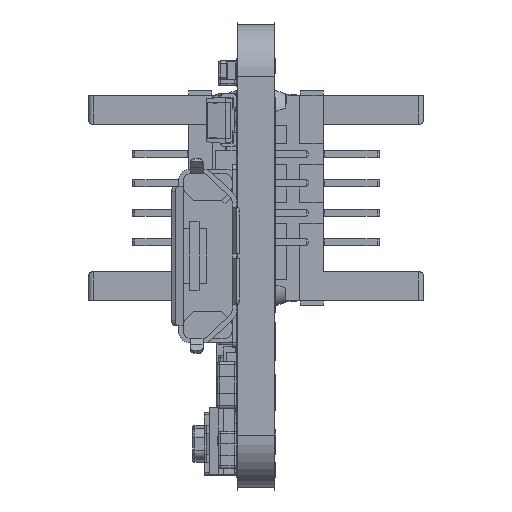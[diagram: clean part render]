
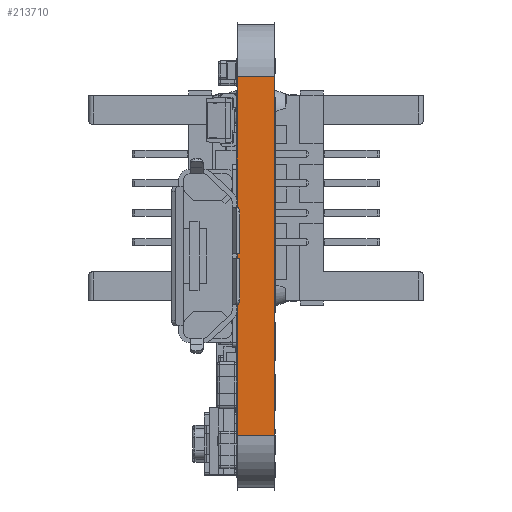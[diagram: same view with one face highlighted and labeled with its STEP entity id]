
A CAD part, left-side view. The second image highlights one B-rep face of the part: STEP entity #213710.
In plain terms, the highlighted planar face has unit normal (-1, 0, 0).
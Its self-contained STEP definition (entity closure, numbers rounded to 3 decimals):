
#4090 = CARTESIAN_POINT ( 'NONE',  ( 100., 0., -117.071 ) ) ;
#4091 = CARTESIAN_POINT ( 'NONE',  ( 100., 0., -113.862 ) ) ;
#4095 = CARTESIAN_POINT ( 'NONE',  ( 100., 0., -106.163 ) ) ;
#4096 = CARTESIAN_POINT ( 'NONE',  ( 100., 0., -102.929 ) ) ;
#30682 = VERTEX_POINT ( 'NONE', #32746 ) ;
#30684 = VERTEX_POINT ( 'NONE', #32747 ) ;
#30928 = VERTEX_POINT ( 'NONE', #32880 ) ;
#30931 = VERTEX_POINT ( 'NONE', #32882 ) ;
#30935 = VERTEX_POINT ( 'NONE', #32884 ) ;
#30937 = VERTEX_POINT ( 'NONE', #32885 ) ;
#32746 = CARTESIAN_POINT ( 'NONE',  ( 100., -1.6, -102.929 ) ) ;
#32747 = CARTESIAN_POINT ( 'NONE',  ( 100., -1.6, -117.071 ) ) ;
#32880 = CARTESIAN_POINT ( 'NONE',  ( 100., 0., -102.25 ) ) ;
#32882 = CARTESIAN_POINT ( 'NONE',  ( 100., -1.6, -102.25 ) ) ;
#32884 = CARTESIAN_POINT ( 'NONE',  ( 100., 0., -117.75 ) ) ;
#32885 = CARTESIAN_POINT ( 'NONE',  ( 100., -1.6, -117.75 ) ) ;
#38219 = AXIS2_PLACEMENT_3D ( 'NONE', #61439, #61440, #61441 ) ;
#61438 = PLANE ( 'NONE',  #38219 ) ;
#61439 = CARTESIAN_POINT ( 'NONE',  ( 100., -1.6, -102.25 ) ) ;
#61440 = DIRECTION ( 'NONE',  ( -1., 0., 0. ) ) ;
#61441 = DIRECTION ( 'NONE',  ( 0., 0., 1. ) ) ;
#63641 = FACE_OUTER_BOUND ( 'NONE', #237142, .T. ) ;
#166938 = VERTEX_POINT ( 'NONE', #4090 ) ;
#166940 = VERTEX_POINT ( 'NONE', #4091 ) ;
#166946 = VERTEX_POINT ( 'NONE', #4095 ) ;
#166948 = VERTEX_POINT ( 'NONE', #4096 ) ;
#213710 = ADVANCED_FACE ( 'NONE', ( #63641 ), #61438, .T. ) ;
#218747 = CARTESIAN_POINT ( 'NONE',  ( 100., 0., -102.25 ) ) ;
#218748 = DIRECTION ( 'NONE',  ( 0., 0., 1. ) ) ;
#218777 = CARTESIAN_POINT ( 'NONE',  ( 100., 0., -102.25 ) ) ;
#218778 = DIRECTION ( 'NONE',  ( 0., 0., 1. ) ) ;
#220149 = LINE ( 'NONE', #218747, #220153 ) ;
#220153 = VECTOR ( 'NONE', #218748, 1000. ) ;
#220162 = LINE ( 'NONE', #218777, #220166 ) ;
#220166 = VECTOR ( 'NONE', #218778, 1000. ) ;
#220754 = LINE ( 'NONE', #222754, #220760 ) ;
#220760 = VECTOR ( 'NONE', #222756, 1000. ) ;
#221965 = LINE ( 'NONE', #225634, #221969 ) ;
#221969 = VECTOR ( 'NONE', #225638, 1000. ) ;
#221978 = LINE ( 'NONE', #225665, #221980 ) ;
#221980 = VECTOR ( 'NONE', #225669, 1000. ) ;
#221982 = LINE ( 'NONE', #225676, #221984 ) ;
#221984 = VECTOR ( 'NONE', #225679, 1000. ) ;
#221986 = LINE ( 'NONE', #225685, #221988 ) ;
#221988 = VECTOR ( 'NONE', #225689, 1000. ) ;
#221990 = LINE ( 'NONE', #225695, #221992 ) ;
#221992 = VECTOR ( 'NONE', #225697, 1000. ) ;
#221994 = LINE ( 'NONE', #225703, #221996 ) ;
#221996 = VECTOR ( 'NONE', #225707, 1000. ) ;
#221998 = LINE ( 'NONE', #225714, #222000 ) ;
#222000 = VECTOR ( 'NONE', #225717, 1000. ) ;
#222754 = CARTESIAN_POINT ( 'NONE',  ( 100., -1.6, -102.25 ) ) ;
#222756 = DIRECTION ( 'NONE',  ( 0., 0., 1. ) ) ;
#225634 = CARTESIAN_POINT ( 'NONE',  ( 100., -1.6, -102.25 ) ) ;
#225638 = DIRECTION ( 'NONE',  ( 0., 1., 0. ) ) ;
#225665 = CARTESIAN_POINT ( 'NONE',  ( 100., 0., -102.25 ) ) ;
#225669 = DIRECTION ( 'NONE',  ( 0., 0., 1. ) ) ;
#225676 = CARTESIAN_POINT ( 'NONE',  ( 100., -1.6, -117.75 ) ) ;
#225679 = DIRECTION ( 'NONE',  ( 0., 1., 0. ) ) ;
#225685 = CARTESIAN_POINT ( 'NONE',  ( 100., -1.6, -102.25 ) ) ;
#225689 = DIRECTION ( 'NONE',  ( 0., 0., 1. ) ) ;
#225695 = CARTESIAN_POINT ( 'NONE',  ( 100., -1.6, -102.25 ) ) ;
#225697 = DIRECTION ( 'NONE',  ( 0., 0., 1. ) ) ;
#225703 = CARTESIAN_POINT ( 'NONE',  ( 100., 0., -102.25 ) ) ;
#225707 = DIRECTION ( 'NONE',  ( 0., 0., -1. ) ) ;
#225714 = CARTESIAN_POINT ( 'NONE',  ( 100., 0., -102.25 ) ) ;
#225717 = DIRECTION ( 'NONE',  ( 0., 0., 1. ) ) ;
#226469 = ORIENTED_EDGE ( 'NONE', *, *, #232454, .F. ) ;
#226472 = ORIENTED_EDGE ( 'NONE', *, *, #232456, .F. ) ;
#226476 = ORIENTED_EDGE ( 'NONE', *, *, #232458, .T. ) ;
#226479 = ORIENTED_EDGE ( 'NONE', *, *, #231946, .T. ) ;
#226482 = ORIENTED_EDGE ( 'NONE', *, *, #232460, .T. ) ;
#226485 = ORIENTED_EDGE ( 'NONE', *, *, #232448, .T. ) ;
#226488 = ORIENTED_EDGE ( 'NONE', *, *, #232462, .T. ) ;
#226492 = ORIENTED_EDGE ( 'NONE', *, *, #231672, .F. ) ;
#226495 = ORIENTED_EDGE ( 'NONE', *, *, #232464, .F. ) ;
#226497 = ORIENTED_EDGE ( 'NONE', *, *, #231666, .F. ) ;
#231666 = EDGE_CURVE ( 'NONE', #166938, #166940, #220149, .T. ) ;
#231672 = EDGE_CURVE ( 'NONE', #166946, #166948, #220162, .T. ) ;
#231946 = EDGE_CURVE ( 'NONE', #30684, #30682, #220754, .T. ) ;
#232448 = EDGE_CURVE ( 'NONE', #30931, #30928, #221965, .T. ) ;
#232454 = EDGE_CURVE ( 'NONE', #30935, #166938, #221978, .T. ) ;
#232456 = EDGE_CURVE ( 'NONE', #30937, #30935, #221982, .T. ) ;
#232458 = EDGE_CURVE ( 'NONE', #30937, #30684, #221986, .T. ) ;
#232460 = EDGE_CURVE ( 'NONE', #30682, #30931, #221990, .T. ) ;
#232462 = EDGE_CURVE ( 'NONE', #30928, #166948, #221994, .T. ) ;
#232464 = EDGE_CURVE ( 'NONE', #166940, #166946, #221998, .T. ) ;
#237142 = EDGE_LOOP ( 'NONE', ( #226469, #226472, #226476, #226479, #226482, #226485, #226488, #226492, #226495, #226497 ) ) ;
